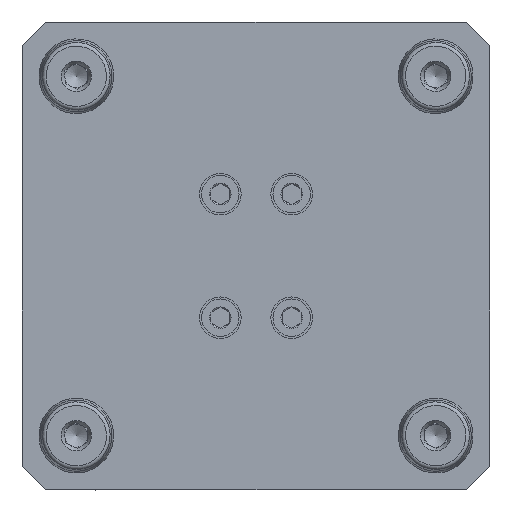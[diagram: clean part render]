
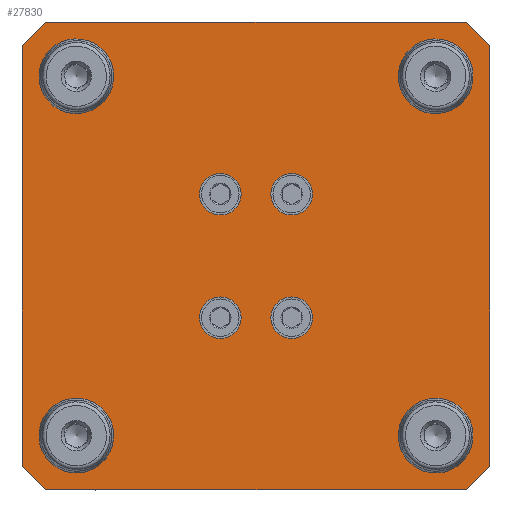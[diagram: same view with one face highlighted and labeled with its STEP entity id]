
A CAD part, front view. The second image highlights one B-rep face of the part: STEP entity #27830.
In plain terms, the highlighted planar face has unit normal (0, -1, 0).
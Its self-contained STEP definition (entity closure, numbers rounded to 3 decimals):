
#62 = ORIENTED_EDGE ( 'NONE', *, *, #24969, .T. ) ;
#233 = CARTESIAN_POINT ( 'NONE',  ( -16.498, 0., -15.081 ) ) ;
#251 = CARTESIAN_POINT ( 'NONE',  ( 48., 0., 48. ) ) ;
#456 = VERTEX_POINT ( 'NONE', #14956 ) ;
#596 = FACE_BOUND ( 'NONE', #11087, .T. ) ;
#766 = DIRECTION ( 'NONE',  ( 0., 0., 1. ) ) ;
#955 = FACE_BOUND ( 'NONE', #2270, .T. ) ;
#1157 = DIRECTION ( 'NONE',  ( 0., 1., 0. ) ) ;
#1293 = ORIENTED_EDGE ( 'NONE', *, *, #32625, .F. ) ;
#1332 = EDGE_LOOP ( 'NONE', ( #24204, #11003, #21386, #19945, #24747, #29531, #14832, #62 ) ) ;
#1711 = CARTESIAN_POINT ( 'NONE',  ( 62.5, 0., -56.15 ) ) ;
#1759 = ORIENTED_EDGE ( 'NONE', *, *, #24249, .F. ) ;
#2089 = VERTEX_POINT ( 'NONE', #4005 ) ;
#2109 = CARTESIAN_POINT ( 'NONE',  ( -48., 0., 39.99 ) ) ;
#2199 = DIRECTION ( 'NONE',  ( 0., 0., -1. ) ) ;
#2270 = EDGE_LOOP ( 'NONE', ( #1759 ) ) ;
#2656 = VECTOR ( 'NONE', #25748, 1000. ) ;
#2689 = DIRECTION ( 'NONE',  ( 0., 0., -1. ) ) ;
#3107 = CARTESIAN_POINT ( 'NONE',  ( -62.5, 0., -62.5 ) ) ;
#3183 = VERTEX_POINT ( 'NONE', #28258 ) ;
#3307 = DIRECTION ( 'NONE',  ( -1., 0., 0. ) ) ;
#3680 = CARTESIAN_POINT ( 'NONE',  ( -62.5, 0., -62.5 ) ) ;
#3764 = ORIENTED_EDGE ( 'NONE', *, *, #25867, .F. ) ;
#4005 = CARTESIAN_POINT ( 'NONE',  ( -56.15, 0., 62.5 ) ) ;
#4092 = EDGE_LOOP ( 'NONE', ( #3764 ) ) ;
#4149 = VERTEX_POINT ( 'NONE', #12945 ) ;
#4435 = CIRCLE ( 'NONE', #15708, 5.556 ) ;
#4901 = DIRECTION ( 'NONE',  ( -0.707, 0., 0.707 ) ) ;
#5432 = DIRECTION ( 'NONE',  ( 0., 0., 1. ) ) ;
#5509 = EDGE_CURVE ( 'NONE', #21602, #21602, #21664, .T. ) ;
#5613 = CARTESIAN_POINT ( 'NONE',  ( 56.15, 0., -62.5 ) ) ;
#6030 = DIRECTION ( 'NONE',  ( -0.707, 0., -0.707 ) ) ;
#6502 = ORIENTED_EDGE ( 'NONE', *, *, #5509, .F. ) ;
#6661 = FACE_BOUND ( 'NONE', #30488, .T. ) ;
#7088 = CIRCLE ( 'NONE', #14182, 5.556 ) ;
#7211 = CARTESIAN_POINT ( 'NONE',  ( 62.5, 0., 56.15 ) ) ;
#7220 = EDGE_CURVE ( 'NONE', #35520, #35520, #33383, .T. ) ;
#7665 = CIRCLE ( 'NONE', #25473, 8.01 ) ;
#8005 = CARTESIAN_POINT ( 'NONE',  ( -16.498, 0., 3.969 ) ) ;
#8052 = CARTESIAN_POINT ( 'NONE',  ( 16.498, 0., -9.525 ) ) ;
#8583 = CARTESIAN_POINT ( 'NONE',  ( -62.5, 0., 62.5 ) ) ;
#8849 = EDGE_CURVE ( 'NONE', #19884, #20592, #25293, .T. ) ;
#9091 = EDGE_CURVE ( 'NONE', #2089, #4149, #17211, .T. ) ;
#9188 = CARTESIAN_POINT ( 'NONE',  ( -56.15, 0., 62.5 ) ) ;
#9464 = PLANE ( 'NONE',  #35183 ) ;
#9795 = DIRECTION ( 'NONE',  ( 0., 0., -1. ) ) ;
#10295 = CARTESIAN_POINT ( 'NONE',  ( 48., 0., -48. ) ) ;
#10373 = AXIS2_PLACEMENT_3D ( 'NONE', #23645, #18591, #27127 ) ;
#10477 = LINE ( 'NONE', #21625, #32518 ) ;
#11003 = ORIENTED_EDGE ( 'NONE', *, *, #9091, .T. ) ;
#11087 = EDGE_LOOP ( 'NONE', ( #23903 ) ) ;
#11116 = ORIENTED_EDGE ( 'NONE', *, *, #7220, .F. ) ;
#11252 = CARTESIAN_POINT ( 'NONE',  ( 56.15, 0., -62.5 ) ) ;
#11689 = FACE_BOUND ( 'NONE', #22060, .T. ) ;
#12056 = EDGE_CURVE ( 'NONE', #21791, #21791, #7088, .T. ) ;
#12154 = AXIS2_PLACEMENT_3D ( 'NONE', #35530, #12884, #32585 ) ;
#12278 = CARTESIAN_POINT ( 'NONE',  ( 48., 0., 56.01 ) ) ;
#12333 = LINE ( 'NONE', #12518, #35378 ) ;
#12518 = CARTESIAN_POINT ( 'NONE',  ( 62.5, 0., -62.5 ) ) ;
#12884 = DIRECTION ( 'NONE',  ( 0., -1., 0. ) ) ;
#12945 = CARTESIAN_POINT ( 'NONE',  ( -62.5, 0., 56.15 ) ) ;
#12954 = DIRECTION ( 'NONE',  ( 0., -1., 0. ) ) ;
#13991 = DIRECTION ( 'NONE',  ( 0., -1., 0. ) ) ;
#14182 = AXIS2_PLACEMENT_3D ( 'NONE', #20944, #12954, #9795 ) ;
#14463 = FACE_BOUND ( 'NONE', #29745, .T. ) ;
#14490 = VERTEX_POINT ( 'NONE', #233 ) ;
#14832 = ORIENTED_EDGE ( 'NONE', *, *, #22256, .F. ) ;
#14956 = CARTESIAN_POINT ( 'NONE',  ( -62.5, 0., -56.15 ) ) ;
#15458 = DIRECTION ( 'NONE',  ( 0., 0., -1. ) ) ;
#15708 = AXIS2_PLACEMENT_3D ( 'NONE', #35954, #36484, #2199 ) ;
#17063 = VERTEX_POINT ( 'NONE', #1711 ) ;
#17171 = ORIENTED_EDGE ( 'NONE', *, *, #22604, .F. ) ;
#17211 = LINE ( 'NONE', #9188, #34699 ) ;
#17271 = FACE_BOUND ( 'NONE', #28648, .T. ) ;
#17274 = VERTEX_POINT ( 'NONE', #21296 ) ;
#17366 = AXIS2_PLACEMENT_3D ( 'NONE', #29554, #34943, #15458 ) ;
#18037 = EDGE_LOOP ( 'NONE', ( #6502 ) ) ;
#18048 = VERTEX_POINT ( 'NONE', #7211 ) ;
#18083 = CARTESIAN_POINT ( 'NONE',  ( -56.15, 0., -62.5 ) ) ;
#18164 = EDGE_CURVE ( 'NONE', #456, #4149, #30971, .T. ) ;
#18591 = DIRECTION ( 'NONE',  ( 0., -1., 0. ) ) ;
#19132 = CARTESIAN_POINT ( 'NONE',  ( -62.5, 0., -56.15 ) ) ;
#19327 = VECTOR ( 'NONE', #31268, 1000. ) ;
#19593 = DIRECTION ( 'NONE',  ( 0., -1., 0. ) ) ;
#19884 = VERTEX_POINT ( 'NONE', #5613 ) ;
#19945 = ORIENTED_EDGE ( 'NONE', *, *, #30976, .T. ) ;
#20450 = VERTEX_POINT ( 'NONE', #23817 ) ;
#20592 = VERTEX_POINT ( 'NONE', #18083 ) ;
#20944 = CARTESIAN_POINT ( 'NONE',  ( -16.498, 0., 9.525 ) ) ;
#21296 = CARTESIAN_POINT ( 'NONE',  ( 56.15, 0., 62.5 ) ) ;
#21386 = ORIENTED_EDGE ( 'NONE', *, *, #18164, .F. ) ;
#21602 = VERTEX_POINT ( 'NONE', #2109 ) ;
#21625 = CARTESIAN_POINT ( 'NONE',  ( 62.5, 0., 56.15 ) ) ;
#21664 = CIRCLE ( 'NONE', #12154, 8.01 ) ;
#21791 = VERTEX_POINT ( 'NONE', #8005 ) ;
#21954 = LINE ( 'NONE', #19132, #33118 ) ;
#22060 = EDGE_LOOP ( 'NONE', ( #11116 ) ) ;
#22211 = LINE ( 'NONE', #11252, #32624 ) ;
#22256 = EDGE_CURVE ( 'NONE', #18048, #17063, #12333, .T. ) ;
#22602 = DIRECTION ( 'NONE',  ( 0.707, 0., 0.707 ) ) ;
#22604 = EDGE_CURVE ( 'NONE', #14490, #14490, #4435, .T. ) ;
#22728 = LINE ( 'NONE', #8583, #19327 ) ;
#23227 = FACE_BOUND ( 'NONE', #18037, .T. ) ;
#23405 = FACE_OUTER_BOUND ( 'NONE', #1332, .T. ) ;
#23645 = CARTESIAN_POINT ( 'NONE',  ( -48., 0., -48. ) ) ;
#23680 = DIRECTION ( 'NONE',  ( 0., 0., -1. ) ) ;
#23817 = CARTESIAN_POINT ( 'NONE',  ( 16.498, 0., -15.081 ) ) ;
#23903 = ORIENTED_EDGE ( 'NONE', *, *, #27455, .F. ) ;
#23938 = CIRCLE ( 'NONE', #36331, 8.01 ) ;
#24204 = ORIENTED_EDGE ( 'NONE', *, *, #29326, .F. ) ;
#24249 = EDGE_CURVE ( 'NONE', #27899, #27899, #26379, .T. ) ;
#24747 = ORIENTED_EDGE ( 'NONE', *, *, #8849, .F. ) ;
#24969 = EDGE_CURVE ( 'NONE', #18048, #17274, #10477, .T. ) ;
#24979 = DIRECTION ( 'NONE',  ( 0., -1., 0. ) ) ;
#25293 = LINE ( 'NONE', #3680, #33478 ) ;
#25473 = AXIS2_PLACEMENT_3D ( 'NONE', #10295, #24979, #27741 ) ;
#25748 = DIRECTION ( 'NONE',  ( 0., 0., 1. ) ) ;
#25867 = EDGE_CURVE ( 'NONE', #3183, #3183, #7665, .T. ) ;
#26211 = VERTEX_POINT ( 'NONE', #12278 ) ;
#26379 = CIRCLE ( 'NONE', #10373, 8.01 ) ;
#26454 = EDGE_CURVE ( 'NONE', #19884, #17063, #22211, .T. ) ;
#26550 = CARTESIAN_POINT ( 'NONE',  ( 0., 0., 0. ) ) ;
#27127 = DIRECTION ( 'NONE',  ( 0., 0., 1. ) ) ;
#27455 = EDGE_CURVE ( 'NONE', #26211, #26211, #23938, .T. ) ;
#27741 = DIRECTION ( 'NONE',  ( 0., 0., -1. ) ) ;
#27830 = ADVANCED_FACE ( 'NONE', ( #17271, #14463, #11689, #596, #955, #29329, #23227, #23405, #6661 ), #9464, .F. ) ;
#27899 = VERTEX_POINT ( 'NONE', #34364 ) ;
#28258 = CARTESIAN_POINT ( 'NONE',  ( 48., 0., -56.01 ) ) ;
#28648 = EDGE_LOOP ( 'NONE', ( #33430 ) ) ;
#29326 = EDGE_CURVE ( 'NONE', #2089, #17274, #22728, .T. ) ;
#29329 = FACE_BOUND ( 'NONE', #4092, .T. ) ;
#29531 = ORIENTED_EDGE ( 'NONE', *, *, #26454, .T. ) ;
#29554 = CARTESIAN_POINT ( 'NONE',  ( 16.498, 0., 9.525 ) ) ;
#29588 = AXIS2_PLACEMENT_3D ( 'NONE', #8052, #19593, #2689 ) ;
#29745 = EDGE_LOOP ( 'NONE', ( #17171 ) ) ;
#29946 = CARTESIAN_POINT ( 'NONE',  ( 16.498, 0., 3.969 ) ) ;
#30205 = CIRCLE ( 'NONE', #29588, 5.556 ) ;
#30488 = EDGE_LOOP ( 'NONE', ( #1293 ) ) ;
#30971 = LINE ( 'NONE', #3107, #2656 ) ;
#30976 = EDGE_CURVE ( 'NONE', #456, #20592, #21954, .T. ) ;
#31268 = DIRECTION ( 'NONE',  ( 1., 0., 0. ) ) ;
#32518 = VECTOR ( 'NONE', #4901, 1000. ) ;
#32585 = DIRECTION ( 'NONE',  ( 0., 0., -1. ) ) ;
#32624 = VECTOR ( 'NONE', #22602, 1000. ) ;
#32625 = EDGE_CURVE ( 'NONE', #20450, #20450, #30205, .T. ) ;
#33118 = VECTOR ( 'NONE', #36013, 1000. ) ;
#33383 = CIRCLE ( 'NONE', #17366, 5.556 ) ;
#33430 = ORIENTED_EDGE ( 'NONE', *, *, #12056, .F. ) ;
#33478 = VECTOR ( 'NONE', #3307, 1000. ) ;
#34364 = CARTESIAN_POINT ( 'NONE',  ( -48., 0., -39.99 ) ) ;
#34699 = VECTOR ( 'NONE', #6030, 1000. ) ;
#34943 = DIRECTION ( 'NONE',  ( 0., -1., 0. ) ) ;
#35183 = AXIS2_PLACEMENT_3D ( 'NONE', #26550, #1157, #766 ) ;
#35378 = VECTOR ( 'NONE', #23680, 1000. ) ;
#35520 = VERTEX_POINT ( 'NONE', #29946 ) ;
#35530 = CARTESIAN_POINT ( 'NONE',  ( -48., 0., 48. ) ) ;
#35954 = CARTESIAN_POINT ( 'NONE',  ( -16.498, 0., -9.525 ) ) ;
#36013 = DIRECTION ( 'NONE',  ( 0.707, 0., -0.707 ) ) ;
#36331 = AXIS2_PLACEMENT_3D ( 'NONE', #251, #13991, #5432 ) ;
#36484 = DIRECTION ( 'NONE',  ( 0., -1., 0. ) ) ;
